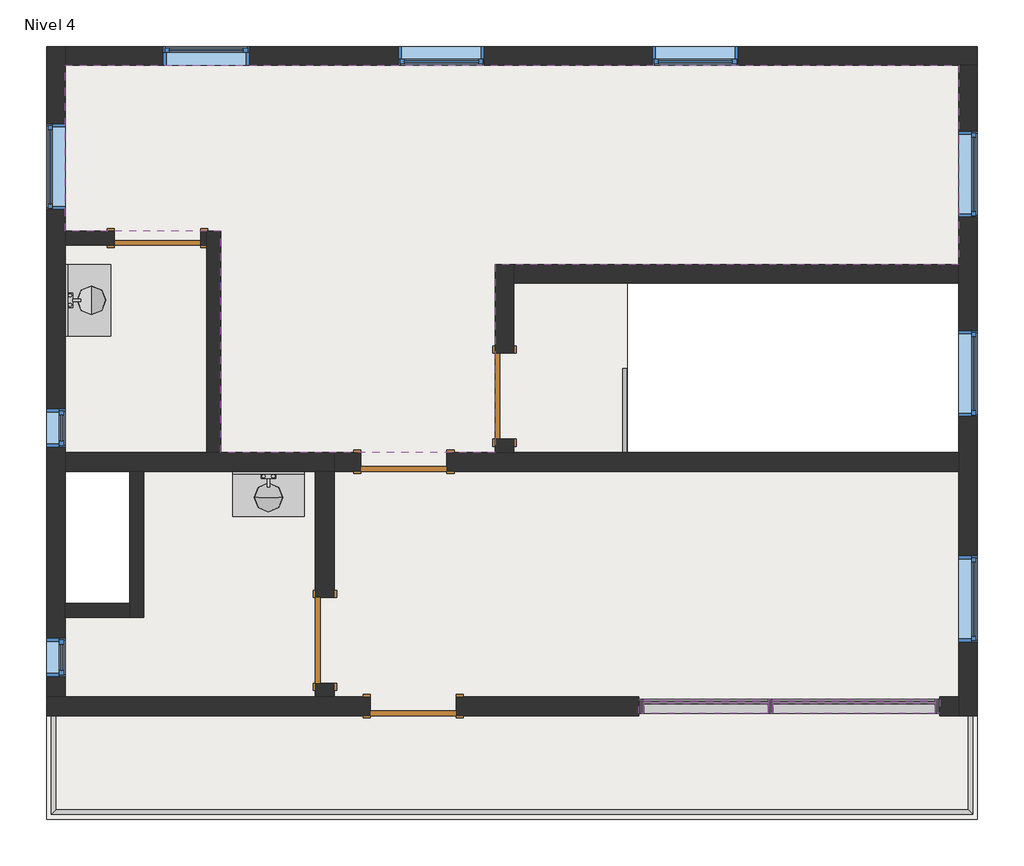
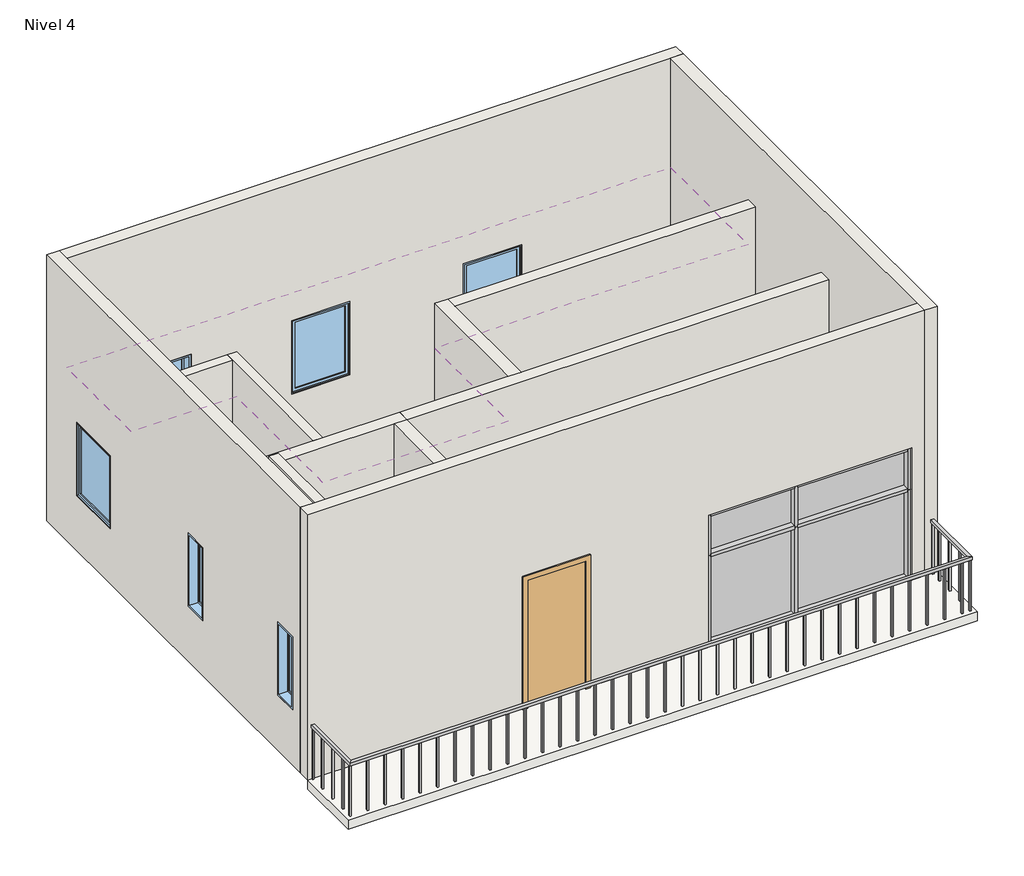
# One storey, incomplete: 13 walls, 12 members, 9 windows, 5 doors, 4 plates, 2 flow terminals, 2 railings, 1 covering, 1 slab.
"""IFC4 building model written with IfcOpenShell, lengths in millimetres."""

from ifc_helpers import new_model, si_unit, frame, origin, place, context, project, spatial, polyline, outline, extrude, faceted_brep, transform, mapped, element, save
from components import m_single_flush_0915_x_2134mm_6a9e8738, m_single_flush_0915_x_2134mm_727434cd, m_single_flush_0915_x_2134mm_f3d7f739, m_lavatory_vanity_760_mmx455_mm_private_5dea4168, rectangular_mullion_50mm_x_150mm_8ba0571e, rectangular_mullion_50mm_x_150mm_225b9777, rectangular_mullion_50mm_x_150mm_1a3ebe9d, rectangular_mullion_50mm_x_150mm_3dc27107, rectangular_mullion_50mm_x_150mm_964d2677, rectangular_mullion_50mm_x_150mm_461a195c, rectangular_mullion_50mm_x_150mm_84253eda, rectangular_mullion_50mm_x_150mm_205d2b36, system_panel_glazed_5259bb3b, system_panel_glazed_2a0213e2, system_panel_glazed_1ff09d7a, system_panel_glazed_c62e4b68, railing_900mm_pipe_162ccb87, railing_900mm_rectangular_0e713c3b, m_fixed_0406_x_1220mm_71a1fb2c, m_fixed_0915_x_1220mm_5cd8e2eb

model = new_model("IFC4")

# Units and contexts
model_context = context("Model", 3, world=origin())
ifc_project = project(units=[si_unit("LENGTHUNIT", "METRE", prefix="MILLI")], contexts=[model_context])

# Site, building, storey
site = spatial("IfcSite", under=ifc_project)
building = spatial("IfcBuilding", under=site)
storey = spatial("IfcBuildingStorey", under=building, Name="Nivel 4", Elevation=10500.0)

# Covering
placement = place(None, origin())
element("IfcCovering", 1, ObjectType="600 x 1200mm grid", at=placement, inside=storey, context=model_context, shape_type="SweptSolid", body=[
    extrude(outline(polyline([(3069.2181942, -3352.0090589), (3904.2181942, -3352.0090589), (3904.2181942, -1797.0090589), (5729.2181942, -1797.0090589), (5729.2181942, -4197.0090589), (3069.2181942, -4197.0090589), (3069.2181942, -3352.0090589)])), frame((0.0, 0.0, 13100.0), z_axis=(0.0, 0.0, 1.0), x_axis=(1.0, 0.0, 0.0)), (0.0, 0.0, 1.0), 52.0),
    extrude(outline(polyline([(12569.2181942, 2522.9909411), (12569.2181942, 404.5332903), (7639.6809687, 404.5332903), (7639.6809687, -1597.0090589), (4724.2181942, -1597.0090589), (4724.2181942, 757.9909411), (3069.2181942, 757.9909411), (3069.2181942, 2522.9909411), (12569.2181942, 2522.9909411)])), frame((0.0, 0.0, 13100.0), z_axis=(0.0, 0.0, 1.0), x_axis=(1.0, 0.0, 0.0)), (0.0, 0.0, 1.0), 52.0),
    extrude(outline(polyline([(5929.2181942, -4197.0090589), (5929.2181942, -1797.0090589), (12569.2181942, -1797.0090589), (12569.2181942, -4197.0090589), (5929.2181942, -4197.0090589)])), frame((0.0, 0.0, 13100.0), z_axis=(0.0, 0.0, 1.0), x_axis=(1.0, 0.0, 0.0)), (0.0, 0.0, 1.0), 52.0),
    extrude(outline(polyline([(3069.2181942, -1597.0090589), (3069.2181942, 607.9909411), (4574.2181942, 607.9909411), (4574.2181942, -1597.0090589), (3069.2181942, -1597.0090589)])), frame((0.0, 0.0, 13100.0), z_axis=(0.0, 0.0, 1.0), x_axis=(1.0, 0.0, 0.0)), (0.0, 0.0, 1.0), 52.0),
])

# Doors
m_single_flush_0915_x_2134mm_shape = m_single_flush_0915_x_2134mm_6a9e8738(model_context)
element("IfcDoor", 2, ObjectType="M_Single-Flush : 0915 x 2134mm", at=placement, inside=storey, context=model_context, shape_type="MappedRepresentation", body=[
    mapped(m_single_flush_0915_x_2134mm_shape, transform((6769.2181942, -4297.0090589, 10500.0), x_axis=(-1.0, 0.0, 0.0), y_axis=(0.0, -1.0, 0.0), z_axis=(0.0, 0.0, 1.0))),
])
element("IfcDoor", 3, ObjectType="M_Single-Flush : 0915 x 2134mm", at=placement, inside=storey, context=model_context, shape_type="MappedRepresentation", body=[
    mapped(m_single_flush_0915_x_2134mm_shape, transform((6669.2181942, -1697.0090589, 10500.0), x_axis=(-1.0, 0.0, 0.0), y_axis=(0.0, -1.0, 0.0), z_axis=(0.0, 0.0, 1.0))),
])
m_single_flush_0915_x_2134mm_2_shape = m_single_flush_0915_x_2134mm_727434cd(model_context)
element("IfcDoor", 4, ObjectType="M_Single-Flush : 0915 x 2134mm", at=placement, inside=storey, context=model_context, shape_type="MappedRepresentation", body=[
    mapped(m_single_flush_0915_x_2134mm_2_shape, transform((5829.2181942, -3597.0090589, 10500.0), x_axis=(0.0, -1.0, 0.0), y_axis=(1.0, 0.0, 0.0), z_axis=(0.0, 0.0, 1.0))),
])
element("IfcDoor", 5, ObjectType="M_Single-Flush : 0915 x 2134mm", at=placement, inside=storey, context=model_context, shape_type="MappedRepresentation", body=[
    mapped(m_single_flush_0915_x_2134mm_2_shape, transform((7739.6809687, -997.0090589, 10500.0), x_axis=(0.0, -1.0, 0.0), y_axis=(1.0, 0.0, 0.0), z_axis=(0.0, 0.0, 1.0))),
])
m_single_flush_0915_x_2134mm_3_shape = m_single_flush_0915_x_2134mm_f3d7f739(model_context)
element("IfcDoor", 6, ObjectType="M_Single-Flush : 0915 x 2134mm", at=placement, inside=storey, context=model_context, shape_type="MappedRepresentation", body=[
    mapped(m_single_flush_0915_x_2134mm_3_shape, transform((4049.2181942, 682.9909411, 10500.0), x_axis=(1.0, 0.0, 0.0), y_axis=(0.0, 1.0, 0.0), z_axis=(0.0, 0.0, 1.0))),
])

# Flow terminals
m_lavatory_vanity_760_mmx455_mm_private_shape = m_lavatory_vanity_760_mmx455_mm_private_5dea4168(model_context)
element("IfcFlowTerminal", 7, ObjectType="M_Lavatory - Vanity : 760 mmx455 mm - Private", at=placement, inside=storey, context=model_context, shape_type="MappedRepresentation", body=[
    mapped(m_lavatory_vanity_760_mmx455_mm_private_shape, transform((5229.2181942, -1797.0090589, 10500.0), x_axis=(0.0, -1.0, 0.0), y_axis=(1.0, 0.0, 0.0), z_axis=(0.0, 0.0, 1.0))),
])
element("IfcFlowTerminal", 8, ObjectType="M_Lavatory - Vanity : 760 mmx455 mm - Private", at=placement, inside=storey, context=model_context, shape_type="MappedRepresentation", body=[
    mapped(m_lavatory_vanity_760_mmx455_mm_private_shape, transform((3069.2181942, 22.9909411, 10500.0), x_axis=(1.0, 0.0, 0.0), y_axis=(0.0, 1.0, 0.0), z_axis=(0.0, 0.0, 1.0))),
])

# Members
rectangular_mullion_50mm_x_150mm_shape = rectangular_mullion_50mm_x_150mm_8ba0571e(model_context)
element("IfcMember", 9, ObjectType="Rectangular Mullion : 50mm x 150mm", at=placement, inside=storey, context=model_context, shape_type="MappedRepresentation", body=[
    mapped(rectangular_mullion_50mm_x_150mm_shape, transform((10594.2181939, -4297.0090589, 12700.0), x_axis=(0.0, 0.0, 1.0), y_axis=(0.0, 1.0, 0.0), z_axis=(-1.0, 0.0, 0.0))),
])
rectangular_mullion_50mm_x_150mm_2_shape = rectangular_mullion_50mm_x_150mm_225b9777(model_context)
element("IfcMember", 10, ObjectType="Rectangular Mullion : 50mm x 150mm", at=placement, inside=storey, context=model_context, shape_type="MappedRepresentation", body=[
    mapped(rectangular_mullion_50mm_x_150mm_2_shape, transform((10544.2181939, -4297.0090589, 10500.0), x_axis=(0.0, 0.0, -1.0), y_axis=(0.0, 1.0, 0.0), z_axis=(1.0, 0.0, 0.0))),
])
rectangular_mullion_50mm_x_150mm_3_shape = rectangular_mullion_50mm_x_150mm_1a3ebe9d(model_context)
element("IfcMember", 11, ObjectType="Rectangular Mullion : 50mm x 150mm", at=placement, inside=storey, context=model_context, shape_type="MappedRepresentation", body=[
    mapped(rectangular_mullion_50mm_x_150mm_3_shape, transform((9219.2181942, -4297.0090589, 12000.0), x_axis=(0.0, 0.0, 1.0), y_axis=(0.0, 1.0, 0.0), z_axis=(-1.0, 0.0, 0.0))),
])
rectangular_mullion_50mm_x_150mm_4_shape = rectangular_mullion_50mm_x_150mm_3dc27107(model_context)
element("IfcMember", 12, ObjectType="Rectangular Mullion : 50mm x 150mm", at=placement, inside=storey, context=model_context, shape_type="MappedRepresentation", body=[
    mapped(rectangular_mullion_50mm_x_150mm_4_shape, transform((10594.2181939, -4297.0090589, 12000.0), x_axis=(0.0, 0.0, 1.0), y_axis=(0.0, 1.0, 0.0), z_axis=(-1.0, 0.0, 0.0))),
])
rectangular_mullion_50mm_x_150mm_5_shape = rectangular_mullion_50mm_x_150mm_964d2677(model_context)
element("IfcMember", 13, ObjectType="Rectangular Mullion : 50mm x 150mm", at=placement, inside=storey, context=model_context, shape_type="MappedRepresentation", body=[
    mapped(rectangular_mullion_50mm_x_150mm_5_shape, transform((10569.2181939, -4297.0090589, 10500.0), x_axis=(-1.0, 0.0, 0.0), y_axis=(0.0, 1.0, 0.0), z_axis=(0.0, 0.0, -1.0))),
])
element("IfcMember", 14, ObjectType="Rectangular Mullion : 50mm x 150mm", at=placement, inside=storey, context=model_context, shape_type="MappedRepresentation", body=[
    mapped(rectangular_mullion_50mm_x_150mm_shape, transform((12319.2181942, -4297.0090589, 10500.0), x_axis=(0.0, 0.0, -1.0), y_axis=(0.0, 1.0, 0.0), z_axis=(1.0, 0.0, 0.0))),
])
element("IfcMember", 15, ObjectType="Rectangular Mullion : 50mm x 150mm", at=placement, inside=storey, context=model_context, shape_type="MappedRepresentation", body=[
    mapped(rectangular_mullion_50mm_x_150mm_2_shape, transform((9219.2181942, -4297.0090589, 12700.0), x_axis=(0.0, 0.0, 1.0), y_axis=(0.0, 1.0, 0.0), z_axis=(-1.0, 0.0, 0.0))),
])
rectangular_mullion_50mm_x_150mm_6_shape = rectangular_mullion_50mm_x_150mm_461a195c(model_context)
element("IfcMember", 16, ObjectType="Rectangular Mullion : 50mm x 150mm", at=placement, inside=storey, context=model_context, shape_type="MappedRepresentation", body=[
    mapped(rectangular_mullion_50mm_x_150mm_6_shape, transform((12369.2181942, -4297.0090589, 12000.0), x_axis=(1.0, 0.0, 0.0), y_axis=(0.0, 1.0, 0.0), z_axis=(0.0, 0.0, 1.0))),
])
element("IfcMember", 17, ObjectType="Rectangular Mullion : 50mm x 150mm", at=placement, inside=storey, context=model_context, shape_type="MappedRepresentation", body=[
    mapped(rectangular_mullion_50mm_x_150mm_6_shape, transform((9169.2181942, -4297.0090589, 10500.0), x_axis=(-1.0, 0.0, 0.0), y_axis=(0.0, 1.0, 0.0), z_axis=(0.0, 0.0, -1.0))),
])
rectangular_mullion_50mm_x_150mm_7_shape = rectangular_mullion_50mm_x_150mm_84253eda(model_context)
element("IfcMember", 18, ObjectType="Rectangular Mullion : 50mm x 150mm", at=placement, inside=storey, context=model_context, shape_type="MappedRepresentation", body=[
    mapped(rectangular_mullion_50mm_x_150mm_7_shape, transform((10569.2181939, -4297.0090589, 12000.0), x_axis=(-1.0, 0.0, 0.0), y_axis=(0.0, 1.0, 0.0), z_axis=(0.0, 0.0, -1.0))),
])
rectangular_mullion_50mm_x_150mm_8_shape = rectangular_mullion_50mm_x_150mm_205d2b36(model_context)
element("IfcMember", 19, ObjectType="Rectangular Mullion : 50mm x 150mm", at=placement, inside=storey, context=model_context, shape_type="MappedRepresentation", body=[
    mapped(rectangular_mullion_50mm_x_150mm_8_shape, transform((9169.2181942, -4297.0090589, 12000.0), x_axis=(-1.0, 0.0, 0.0), y_axis=(0.0, 1.0, 0.0), z_axis=(0.0, 0.0, -1.0))),
])
element("IfcMember", 20, ObjectType="Rectangular Mullion : 50mm x 150mm", at=placement, inside=storey, context=model_context, shape_type="MappedRepresentation", body=[
    mapped(rectangular_mullion_50mm_x_150mm_8_shape, transform((12369.2181942, -4297.0090589, 12700.0), x_axis=(1.0, 0.0, 0.0), y_axis=(0.0, 1.0, 0.0), z_axis=(0.0, 0.0, 1.0))),
])

# Plates
system_panel_glazed_shape = system_panel_glazed_5259bb3b(model_context)
element("IfcPlate", 21, ObjectType="System Panel : Glazed", at=placement, inside=storey, context=model_context, shape_type="MappedRepresentation", body=[
    mapped(system_panel_glazed_shape, transform((11456.718194, -4297.0090589, 10550.0), x_axis=(-1.0, 0.0, 0.0), y_axis=(0.0, -1.0, 0.0), z_axis=(0.0, 0.0, 1.0))),
])
system_panel_glazed_2_shape = system_panel_glazed_2a0213e2(model_context)
element("IfcPlate", 22, ObjectType="System Panel : Glazed", at=placement, inside=storey, context=model_context, shape_type="MappedRepresentation", body=[
    mapped(system_panel_glazed_2_shape, transform((9881.718194, -4297.0090589, 10550.0), x_axis=(-1.0, 0.0, 0.0), y_axis=(0.0, -1.0, 0.0), z_axis=(0.0, 0.0, 1.0))),
])
system_panel_glazed_3_shape = system_panel_glazed_1ff09d7a(model_context)
element("IfcPlate", 23, ObjectType="System Panel : Glazed", at=placement, inside=storey, context=model_context, shape_type="MappedRepresentation", body=[
    mapped(system_panel_glazed_3_shape, transform((11456.718194, -4297.0090589, 12025.0), x_axis=(-1.0, 0.0, 0.0), y_axis=(0.0, -1.0, 0.0), z_axis=(0.0, 0.0, 1.0))),
])
system_panel_glazed_4_shape = system_panel_glazed_c62e4b68(model_context)
element("IfcPlate", 24, ObjectType="System Panel : Glazed", at=placement, inside=storey, context=model_context, shape_type="MappedRepresentation", body=[
    mapped(system_panel_glazed_4_shape, transform((9881.718194, -4297.0090589, 12025.0), x_axis=(-1.0, 0.0, 0.0), y_axis=(0.0, -1.0, 0.0), z_axis=(0.0, 0.0, 1.0))),
])

# Railings
railing_900mm_pipe_shape = railing_900mm_pipe_162ccb87(model_context)
element("IfcRailing", 25, ObjectType="900mm Pipe", at=placement, inside=storey, context=model_context, shape_type="MappedRepresentation", body=[
    mapped(railing_900mm_pipe_shape, transform((0.0, 0.0, 0.0), x_axis=(1.0, 0.0, 0.0), y_axis=(0.0, 1.0, 0.0), z_axis=(0.0, 0.0, 1.0))),
])
railing_900mm_rectangular_shape = railing_900mm_rectangular_0e713c3b(model_context)
element("IfcRailing", 26, ObjectType="900mm Rectangular", at=placement, inside=storey, context=model_context, shape_type="MappedRepresentation", body=[
    mapped(railing_900mm_rectangular_shape, transform((0.0, 0.0, 0.0), x_axis=(1.0, 0.0, 0.0), y_axis=(0.0, 1.0, 0.0), z_axis=(0.0, 0.0, 1.0))),
])

# Slab
element("IfcSlab", 27, ObjectType="Generic Floor - 400mm", at=placement, inside=storey, context=model_context, shape_type="SweptSolid", body=[
    extrude(outline(polyline([(12769.2181942, -5497.0090589), (2869.2181942, -5497.0090589), (2869.2181942, -4397.0090589), (3069.2181942, -4397.0090589), (3069.2181942, -3202.0090589), (3754.2181942, -3202.0090589), (3754.2181942, -1797.0090589), (3069.2181942, -1797.0090589), (3069.2181942, 2522.9909411), (12569.2181942, 2522.9909411), (12569.2181942, 204.5332903), (9044.2181942, 204.5332903), (9044.2181942, -1597.0090589), (12569.2181942, -1597.0090589), (12569.2181942, -4397.0090589), (12769.2181942, -4397.0090589), (12769.2181942, -5497.0090589)])), frame((0.0, 0.0, 10350.0), z_axis=(0.0, 0.0, 1.0), x_axis=(1.0, 0.0, 0.0)), (0.0, 0.0, 1.0), 150.0),
])

# Walls
element("IfcWall", 28, ObjectType="Generic - 150mm", at=placement, inside=storey, context=model_context, shape_type="Brep", body=[
    faceted_brep([(3754.2181942, -1797.0090589, 10500.0), (3754.2181942, -3202.0090589, 10500.0), (3754.2181942, -3352.0090589, 10500.0), (3754.2181942, -3352.0090589, 14000.0), (3754.2181942, -3202.0090589, 14000.0), (3754.2181942, -1797.0090589, 14000.0), (3904.2181942, -1797.0090589, 10500.0), (3904.2181942, -1797.0090589, 14000.0), (3904.2181942, -3352.0090589, 14000.0), (3904.2181942, -3352.0090589, 10500.0)], [[[0, 1, 2, 3, 4, 5]], [[6, 7, 8, 9]], [[2, 1, 0, 6, 9]], [[5, 4, 3, 8, 7]], [[0, 5, 7, 6]], [[3, 2, 9, 8]]]),
])
element("IfcWall", 29, ObjectType="Generic - 150mm", at=placement, inside=storey, context=model_context, shape_type="Brep", body=[
    faceted_brep([(4724.2181942, -1597.0090589, 10500.0), (4724.2181942, 757.9909411, 10500.0), (4724.2181942, 757.9909411, 13850.0), (4724.2181942, -1597.0090589, 13850.0), (4574.2181942, -1597.0090589, 10500.0), (4574.2181942, -1597.0090589, 13850.0), (4574.2181942, 607.9909411, 13850.0), (4574.2181942, 757.9909411, 13850.0), (4574.2181942, 757.9909411, 10500.0), (4574.2181942, 607.9909411, 10500.0)], [[[0, 1, 2, 3]], [[4, 5, 6, 7, 8, 9]], [[1, 0, 4, 9, 8]], [[3, 2, 7, 6, 5]], [[2, 1, 8, 7]], [[0, 3, 5, 4]]]),
])
element("IfcWall", 30, ObjectType="Generic - 150mm", at=placement, inside=storey, context=model_context, shape_type="SweptSolid", body=[
    extrude(outline(polyline([(12634.0, 4506.7181942), (10500.0, 4506.7181942), (10500.0, 4574.2181942), (13850.0, 4574.2181942), (13850.0, 3069.2181942), (10500.0, 3069.2181942), (10500.0, 3591.7181942), (12634.0, 3591.7181942), (12634.0, 4506.7181942)])), frame((0.0, 607.9909411, 0.0), z_axis=(0.0, 1.0, 0.0), x_axis=(0.0, 0.0, 1.0)), (0.0, 0.0, 1.0), 150.0),
])
element("IfcWall", 31, ObjectType="Generic - 150mm", at=placement, inside=storey, context=model_context, shape_type="SweptSolid", body=[
    extrude(outline(polyline([(3754.2181942, -3352.0090589), (3069.2181942, -3352.0090589), (3069.2181942, -3202.0090589), (3754.2181942, -3202.0090589), (3754.2181942, -3352.0090589)])), frame((0.0, 0.0, 10500.0), z_axis=(0.0, 0.0, 1.0), x_axis=(1.0, 0.0, 0.0)), (0.0, 0.0, 1.0), 3500.0),
])
element("IfcWall", 32, ObjectType="Generic - 200mm", at=placement, inside=storey, context=model_context, shape_type="Brep", body=[
    faceted_brep([(12769.2181942, 2722.9909411, 10500.0), (3069.2181942, 2722.9909411, 10500.0), (3069.2181942, 2722.9909411, 14918.4), (12769.2181942, 2722.9909411, 14918.4), (9311.7181942, 2722.9909411, 11415.0), (10226.7181942, 2722.9909411, 11415.0), (10226.7181942, 2722.9909411, 12635.0), (9311.7181942, 2722.9909411, 12635.0), (6611.7181942, 2722.9909411, 11415.0), (7526.7181942, 2722.9909411, 11415.0), (7526.7181942, 2722.9909411, 12635.0), (6611.7181942, 2722.9909411, 12635.0), (5026.7181942, 2722.9909411, 11415.0), (5026.7181942, 2722.9909411, 12635.0), (4111.7181942, 2722.9909411, 12635.0), (4111.7181942, 2722.9909411, 11415.0), (12769.2181942, 2522.9909411, 10500.0), (12769.2181942, 2522.9909411, 14918.4), (12569.2181942, 2522.9909411, 14918.4), (3069.2181942, 2522.9909411, 14918.4), (3069.2181942, 2522.9909411, 10500.0), (12569.2181942, 2522.9909411, 10500.0), (9311.7181942, 2522.9909411, 11415.0), (9311.7181942, 2522.9909411, 12635.0), (10226.7181942, 2522.9909411, 12635.0), (10226.7181942, 2522.9909411, 11415.0), (6611.7181942, 2522.9909411, 11415.0), (6611.7181942, 2522.9909411, 12635.0), (7526.7181942, 2522.9909411, 12635.0), (7526.7181942, 2522.9909411, 11415.0), (5026.7181942, 2522.9909411, 11415.0), (4111.7181942, 2522.9909411, 11415.0), (4111.7181942, 2522.9909411, 12635.0), (5026.7181942, 2522.9909411, 12635.0)], [[[0, 1, 2, 3], [4, 5, 6, 7], [8, 9, 10, 11], [12, 13, 14, 15]], [[16, 17, 18, 19, 20, 21], [22, 23, 24, 25], [26, 27, 28, 29], [30, 31, 32, 33]], [[1, 0, 16, 21, 20]], [[3, 2, 19, 18, 17]], [[0, 3, 17, 16]], [[2, 1, 20, 19]], [[23, 22, 4, 7]], [[24, 23, 7, 6]], [[25, 24, 6, 5]], [[22, 25, 5, 4]], [[27, 26, 8, 11]], [[28, 27, 11, 10]], [[29, 28, 10, 9]], [[26, 29, 9, 8]], [[13, 12, 30, 33]], [[14, 13, 33, 32]], [[15, 14, 32, 31]], [[12, 15, 31, 30]]]),
])
element("IfcWall", 33, ObjectType="Generic - 200mm", at=placement, inside=storey, context=model_context, shape_type="Brep", body=[
    faceted_brep([(12769.2181942, -4397.0090589, 10500.0), (12769.2181942, 2522.9909411, 10500.0), (12769.2181942, 2522.9909411, 14918.4256772), (12769.2181942, -4397.0090589, 14918.4256772), (12769.2181942, -3614.5090589, 11415.0), (12769.2181942, -3614.5090589, 12635.0), (12769.2181942, -2699.5090589, 12635.0), (12769.2181942, -2699.5090589, 11415.0), (12769.2181942, -1214.5090589, 11415.0), (12769.2181942, -1214.5090589, 12635.0), (12769.2181942, -299.5090589, 12635.0), (12769.2181942, -299.5090589, 11415.0), (12769.2181942, 905.4909411, 11415.0), (12769.2181942, 905.4909411, 12635.0), (12769.2181942, 1820.4909411, 12635.0), (12769.2181942, 1820.4909411, 11415.0), (12569.2181942, -4397.0090589, 10500.0), (12569.2181942, -4397.0090589, 14918.4256772), (12569.2181942, -4197.0090589, 14918.4256772), (12569.2181942, 2522.9909411, 14918.4256772), (12569.2181942, 2522.9909411, 10500.0), (12569.2181942, 404.5332903, 10500.0), (12569.2181942, 204.5332903, 10500.0), (12569.2181942, -1597.0090589, 10500.0), (12569.2181942, -1797.0090589, 10500.0), (12569.2181942, -4197.0090589, 10500.0), (12569.2181942, -3614.5090589, 11415.0), (12569.2181942, -2699.5090589, 11415.0), (12569.2181942, -2699.5090589, 12635.0), (12569.2181942, -3614.5090589, 12635.0), (12569.2181942, -1214.5090589, 11415.0), (12569.2181942, -299.5090589, 11415.0), (12569.2181942, -299.5090589, 12635.0), (12569.2181942, -1214.5090589, 12635.0), (12569.2181942, 905.4909411, 11415.0), (12569.2181942, 1820.4909411, 11415.0), (12569.2181942, 1820.4909411, 12635.0), (12569.2181942, 905.4909411, 12635.0)], [[[0, 1, 2, 3], [4, 5, 6, 7], [8, 9, 10, 11], [12, 13, 14, 15]], [[16, 17, 18, 19, 20, 21, 22, 23, 24, 25], [26, 27, 28, 29], [30, 31, 32, 33], [34, 35, 36, 37]], [[1, 0, 16, 25, 24, 23, 22, 21, 20]], [[3, 2, 19, 18, 17]], [[0, 3, 17, 16]], [[2, 1, 20, 19]], [[5, 4, 26, 29]], [[6, 5, 29, 28]], [[7, 6, 28, 27]], [[4, 7, 27, 26]], [[9, 8, 30, 33]], [[10, 9, 33, 32]], [[11, 10, 32, 31]], [[8, 11, 31, 30]], [[13, 12, 34, 37]], [[14, 13, 37, 36]], [[15, 14, 36, 35]], [[12, 15, 35, 34]]]),
])
element("IfcWall", 34, ObjectType="Generic - 200mm", at=placement, inside=storey, context=model_context, shape_type="Brep", body=[
    faceted_brep([(12569.2181942, -4397.0090589, 14918.4), (2869.2181942, -4397.0090589, 14918.4), (2869.2181942, -4397.0090589, 10500.0), (6311.7181942, -4397.0090589, 10500.0), (6311.7181942, -4397.0090589, 12634.0), (7226.7181942, -4397.0090589, 12634.0), (7226.7181942, -4397.0090589, 10500.0), (9169.2181942, -4397.0090589, 10500.0), (9169.2181942, -4397.0090589, 12700.0), (12369.2181942, -4397.0090589, 12700.0), (12369.2181942, -4397.0090589, 10500.0), (12569.2181942, -4397.0090589, 10500.0), (2869.2181942, -4197.0090589, 14918.4), (3069.2181942, -4197.0090589, 14918.4), (12569.2181942, -4197.0090589, 14918.4), (12569.2181942, -4197.0090589, 10500.0), (12369.2181942, -4197.0090589, 10500.0), (12369.2181942, -4197.0090589, 12700.0), (9169.2181942, -4197.0090589, 12700.0), (9169.2181942, -4197.0090589, 10500.0), (7226.7181942, -4197.0090589, 10500.0), (7226.7181942, -4197.0090589, 12634.0), (6311.7181942, -4197.0090589, 12634.0), (6311.7181942, -4197.0090589, 10500.0), (5929.2181942, -4197.0090589, 10500.0), (5729.2181942, -4197.0090589, 10500.0), (3069.2181942, -4197.0090589, 10500.0), (2869.2181942, -4197.0090589, 10500.0)], [[[0, 1, 2, 3, 4, 5, 6, 7, 8, 9, 10, 11]], [[12, 13, 14, 15, 16, 17, 18, 19, 20, 21, 22, 23, 24, 25, 26, 27]], [[2, 27, 26, 25, 24, 23, 3]], [[15, 11, 10, 16]], [[6, 20, 19, 7]], [[1, 0, 14, 13, 12]], [[2, 1, 12, 27]], [[0, 11, 15, 14]], [[4, 3, 23, 22]], [[5, 4, 22, 21]], [[6, 5, 21, 20]], [[9, 17, 16, 10]], [[17, 9, 8, 18]], [[18, 8, 7, 19]]]),
])
element("IfcWall", 35, ObjectType="Generic - 200mm", at=placement, inside=storey, context=model_context, shape_type="Brep", body=[
    faceted_brep([(2869.2181942, 2722.9909411, 10500.0), (2869.2181942, -4197.0090589, 10500.0), (2869.2181942, -4197.0090589, 14918.4), (2869.2181942, 2722.9909411, 14918.4), (2869.2181942, 1900.4909411, 11415.0), (2869.2181942, 1900.4909411, 12635.0), (2869.2181942, 985.4909411, 12635.0), (2869.2181942, 985.4909411, 11415.0), (2869.2181942, -1134.0090589, 11415.0), (2869.2181942, -1134.0090589, 12635.0), (2869.2181942, -1540.0090589, 12635.0), (2869.2181942, -1540.0090589, 11415.0), (2869.2181942, -3574.0090589, 11415.0), (2869.2181942, -3574.0090589, 12635.0), (2869.2181942, -3980.0090589, 12635.0), (2869.2181942, -3980.0090589, 11415.0), (3069.2181942, 2722.9909411, 10500.0), (3069.2181942, 2722.9909411, 14918.4), (3069.2181942, 2522.9909411, 14918.4), (3069.2181942, -4197.0090589, 14918.4), (3069.2181942, -4197.0090589, 10500.0), (3069.2181942, -3352.0090589, 10500.0), (3069.2181942, -3202.0090589, 10500.0), (3069.2181942, -1797.0090589, 10500.0), (3069.2181942, -1597.0090589, 10500.0), (3069.2181942, 607.9909411, 10500.0), (3069.2181942, 757.9909411, 10500.0), (3069.2181942, 2522.9909411, 10500.0), (3069.2181942, 1900.4909411, 11415.0), (3069.2181942, 985.4909411, 11415.0), (3069.2181942, 985.4909411, 12635.0), (3069.2181942, 1900.4909411, 12635.0), (3069.2181942, -1134.0090589, 11415.0), (3069.2181942, -1540.0090589, 11415.0), (3069.2181942, -1540.0090589, 12635.0), (3069.2181942, -1134.0090589, 12635.0), (3069.2181942, -3574.0090589, 11415.0), (3069.2181942, -3980.0090589, 11415.0), (3069.2181942, -3980.0090589, 12635.0), (3069.2181942, -3574.0090589, 12635.0)], [[[0, 1, 2, 3], [4, 5, 6, 7], [8, 9, 10, 11], [12, 13, 14, 15]], [[16, 17, 18, 19, 20, 21, 22, 23, 24, 25, 26, 27], [28, 29, 30, 31], [32, 33, 34, 35], [36, 37, 38, 39]], [[1, 0, 16, 27, 26, 25, 24, 23, 22, 21, 20]], [[3, 2, 19, 18, 17]], [[0, 3, 17, 16]], [[2, 1, 20, 19]], [[5, 4, 28, 31]], [[6, 5, 31, 30]], [[7, 6, 30, 29]], [[4, 7, 29, 28]], [[9, 8, 32, 35]], [[10, 9, 35, 34]], [[11, 10, 34, 33]], [[8, 11, 33, 32]], [[13, 12, 36, 39]], [[14, 13, 39, 38]], [[15, 14, 38, 37]], [[12, 15, 37, 36]]]),
])
element("IfcWall", 36, ObjectType="Generic - 200mm", at=placement, inside=storey, context=model_context, shape_type="SweptSolid", body=[
    extrude(outline(polyline([(-4054.5090589, 12634.0), (-4054.5090589, 10500.0), (-4197.0090589, 10500.0), (-4197.0090589, 13850.0), (-1797.0090589, 13850.0), (-1797.0090589, 10500.0), (-3139.5090589, 10500.0), (-3139.5090589, 12634.0), (-4054.5090589, 12634.0)])), frame((5729.2181942, 0.0, 0.0), z_axis=(1.0, 0.0, 0.0), x_axis=(0.0, 1.0, 0.0)), (0.0, 0.0, 1.0), 200.0),
])
element("IfcWall", 37, ObjectType="Generic - 200mm", at=placement, inside=storey, context=model_context, shape_type="Brep", body=[
    faceted_brep([(5929.2181942, -1597.0090589, 10500.0), (4724.2181942, -1597.0090589, 10500.0), (4574.2181942, -1597.0090589, 10500.0), (3069.2181942, -1597.0090589, 10500.0), (3069.2181942, -1597.0090589, 13850.0), (4574.2181942, -1597.0090589, 13850.0), (4724.2181942, -1597.0090589, 13850.0), (5929.2181942, -1597.0090589, 13850.0), (5929.2181942, -1797.0090589, 10500.0), (5929.2181942, -1797.0090589, 13850.0), (5729.2181942, -1797.0090589, 13850.0), (3069.2181942, -1797.0090589, 13850.0), (3069.2181942, -1797.0090589, 10500.0), (3754.2181942, -1797.0090589, 10500.0), (3904.2181942, -1797.0090589, 10500.0), (5729.2181942, -1797.0090589, 10500.0)], [[[0, 1, 2, 3, 4, 5, 6, 7]], [[8, 9, 10, 11, 12, 13, 14, 15]], [[3, 2, 1, 0, 8, 15, 14, 13, 12]], [[7, 6, 5, 4, 11, 10, 9]], [[4, 3, 12, 11]], [[0, 7, 9, 8]]]),
])
element("IfcWall", 38, ObjectType="Generic - 200mm", at=placement, inside=storey, context=model_context, shape_type="Brep", body=[
    faceted_brep([(6211.7181942, -1597.0090589, 12634.0), (6211.7181942, -1597.0090589, 10500.0), (5929.2181942, -1597.0090589, 10500.0), (5929.2181942, -1597.0090589, 13850.0), (7639.6809687, -1597.0090589, 13850.0), (7839.6809687, -1597.0090589, 13850.0), (12569.2181942, -1597.0090589, 13850.0), (12569.2181942, -1597.0090589, 10500.0), (7839.6809687, -1597.0090589, 10500.0), (7639.6809687, -1597.0090589, 10500.0), (7126.7181942, -1597.0090589, 10500.0), (7126.7181942, -1597.0090589, 12634.0), (5929.2181942, -1797.0090589, 10500.0), (6211.7181942, -1797.0090589, 10500.0), (6211.7181942, -1797.0090589, 12634.0), (7126.7181942, -1797.0090589, 12634.0), (7126.7181942, -1797.0090589, 10500.0), (12569.2181942, -1797.0090589, 10500.0), (12569.2181942, -1797.0090589, 13850.0), (5929.2181942, -1797.0090589, 13850.0)], [[[0, 1, 2, 3, 4, 5, 6, 7, 8, 9, 10, 11]], [[12, 13, 14, 15, 16, 17, 18, 19]], [[2, 1, 13, 12]], [[10, 9, 8, 7, 17, 16]], [[6, 5, 4, 3, 19, 18]], [[14, 13, 1, 0]], [[15, 14, 0, 11]], [[16, 15, 11, 10]], [[7, 6, 18, 17]], [[3, 2, 12, 19]]]),
])
element("IfcWall", 39, ObjectType="Generic - 200mm", at=placement, inside=storey, context=model_context, shape_type="SweptSolid", body=[
    extrude(outline(polyline([(7839.6809687, 404.5332903), (12569.2181942, 404.5332903), (12569.2181942, 204.5332903), (7839.6809687, 204.5332903), (7839.6809687, 404.5332903)])), frame((0.0, 0.0, 10500.0), z_axis=(0.0, 0.0, 1.0), x_axis=(1.0, 0.0, 0.0)), (0.0, 0.0, 1.0), 3350.0),
])
element("IfcWall", 40, ObjectType="Generic - 200mm", at=placement, inside=storey, context=model_context, shape_type="Brep", body=[
    faceted_brep([(7639.6809687, -1454.5090589, 12634.0), (7639.6809687, -1454.5090589, 10500.0), (7639.6809687, -1597.0090589, 10500.0), (7639.6809687, -1597.0090589, 13850.0), (7639.6809687, 404.5332903, 13850.0), (7639.6809687, 404.5332903, 10500.0), (7639.6809687, -539.5090589, 10500.0), (7639.6809687, -539.5090589, 12634.0), (7839.6809687, -1597.0090589, 10500.0), (7839.6809687, -1454.5090589, 10500.0), (7839.6809687, -1454.5090589, 12634.0), (7839.6809687, -539.5090589, 12634.0), (7839.6809687, -539.5090589, 10500.0), (7839.6809687, 204.5332903, 10500.0), (7839.6809687, 404.5332903, 10500.0), (7839.6809687, 404.5332903, 13850.0), (7839.6809687, 204.5332903, 13850.0), (7839.6809687, -1597.0090589, 13850.0)], [[[0, 1, 2, 3, 4, 5, 6, 7]], [[8, 9, 10, 11, 12, 13, 14, 15, 16, 17]], [[6, 5, 14, 13, 12]], [[2, 1, 9, 8]], [[4, 3, 17, 16, 15]], [[10, 9, 1, 0]], [[11, 10, 0, 7]], [[12, 11, 7, 6]], [[3, 2, 8, 17]], [[5, 4, 15, 14]]]),
])

# Windows
m_fixed_0406_x_1220mm_shape = m_fixed_0406_x_1220mm_71a1fb2c(model_context)
element("IfcWindow", 41, ObjectType="M_Fixed : 0406 x 1220mm", at=placement, inside=storey, context=model_context, shape_type="MappedRepresentation", body=[
    mapped(m_fixed_0406_x_1220mm_shape, transform((2956.2181942, -1337.0090589, 10500.0), x_axis=(0.0, -1.0, 0.0), y_axis=(1.0, 0.0, 0.0), z_axis=(0.0, 0.0, 1.0))),
])
element("IfcWindow", 42, ObjectType="M_Fixed : 0406 x 1220mm", at=placement, inside=storey, context=model_context, shape_type="MappedRepresentation", body=[
    mapped(m_fixed_0406_x_1220mm_shape, transform((2956.2181942, -3777.0090589, 10500.0), x_axis=(0.0, -1.0, 0.0), y_axis=(1.0, 0.0, 0.0), z_axis=(0.0, 0.0, 1.0))),
])
m_fixed_0915_x_1220mm_shape = m_fixed_0915_x_1220mm_5cd8e2eb(model_context)
element("IfcWindow", 43, ObjectType="M_Fixed : 0915 x 1220mm", at=placement, inside=storey, context=model_context, shape_type="MappedRepresentation", body=[
    mapped(m_fixed_0915_x_1220mm_shape, transform((12656.2181942, -3157.0090589, 10500.0), x_axis=(0.0, 1.0, 0.0), y_axis=(-1.0, 0.0, 0.0), z_axis=(0.0, 0.0, 1.0))),
])
element("IfcWindow", 44, ObjectType="M_Fixed : 0915 x 1220mm", at=placement, inside=storey, context=model_context, shape_type="MappedRepresentation", body=[
    mapped(m_fixed_0915_x_1220mm_shape, transform((12656.2181942, -757.0090589, 10500.0), x_axis=(0.0, 1.0, 0.0), y_axis=(-1.0, 0.0, 0.0), z_axis=(0.0, 0.0, 1.0))),
])
element("IfcWindow", 45, ObjectType="M_Fixed : 0915 x 1220mm", at=placement, inside=storey, context=model_context, shape_type="MappedRepresentation", body=[
    mapped(m_fixed_0915_x_1220mm_shape, transform((12656.2181942, 1362.9909411, 10500.0), x_axis=(0.0, 1.0, 0.0), y_axis=(-1.0, 0.0, 0.0), z_axis=(0.0, 0.0, 1.0))),
])
element("IfcWindow", 46, ObjectType="M_Fixed : 0915 x 1220mm", at=placement, inside=storey, context=model_context, shape_type="MappedRepresentation", body=[
    mapped(m_fixed_0915_x_1220mm_shape, transform((9769.2181942, 2635.9909411, 10500.0), x_axis=(1.0, 0.0, 0.0), y_axis=(0.0, 1.0, 0.0), z_axis=(0.0, 0.0, 1.0))),
])
element("IfcWindow", 47, ObjectType="M_Fixed : 0915 x 1220mm", at=placement, inside=storey, context=model_context, shape_type="MappedRepresentation", body=[
    mapped(m_fixed_0915_x_1220mm_shape, transform((7069.2181942, 2635.9909411, 10500.0), x_axis=(1.0, 0.0, 0.0), y_axis=(0.0, 1.0, 0.0), z_axis=(0.0, 0.0, 1.0))),
])
element("IfcWindow", 48, ObjectType="M_Fixed : 0915 x 1220mm", at=placement, inside=storey, context=model_context, shape_type="MappedRepresentation", body=[
    mapped(m_fixed_0915_x_1220mm_shape, transform((4569.2181942, 2609.9909411, 10500.0), x_axis=(-1.0, 0.0, 0.0), y_axis=(0.0, -1.0, 0.0), z_axis=(0.0, 0.0, 1.0))),
])
element("IfcWindow", 49, ObjectType="M_Fixed : 0915 x 1220mm", at=placement, inside=storey, context=model_context, shape_type="MappedRepresentation", body=[
    mapped(m_fixed_0915_x_1220mm_shape, transform((2982.2181942, 1442.9909411, 10500.0), x_axis=(0.0, -1.0, 0.0), y_axis=(1.0, 0.0, 0.0), z_axis=(0.0, 0.0, 1.0))),
])

save(model, "model.ifc")
